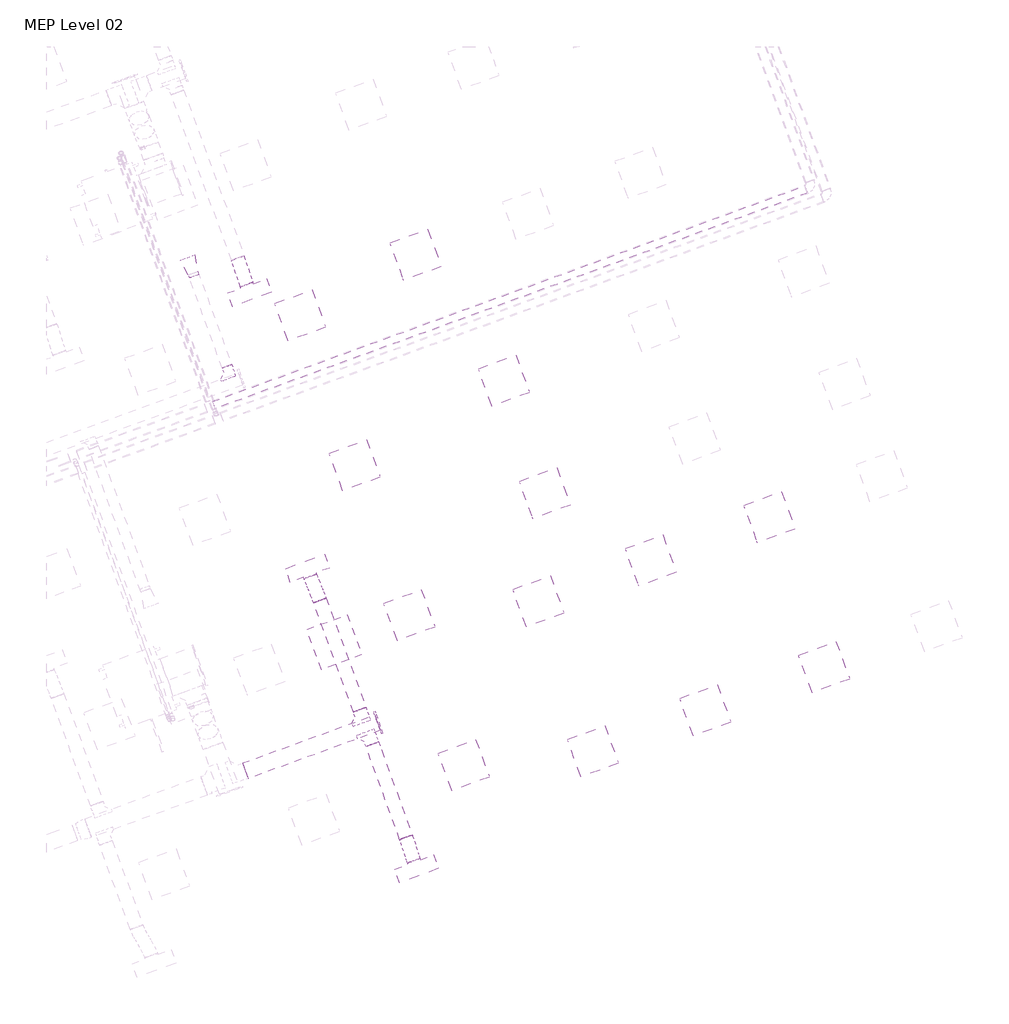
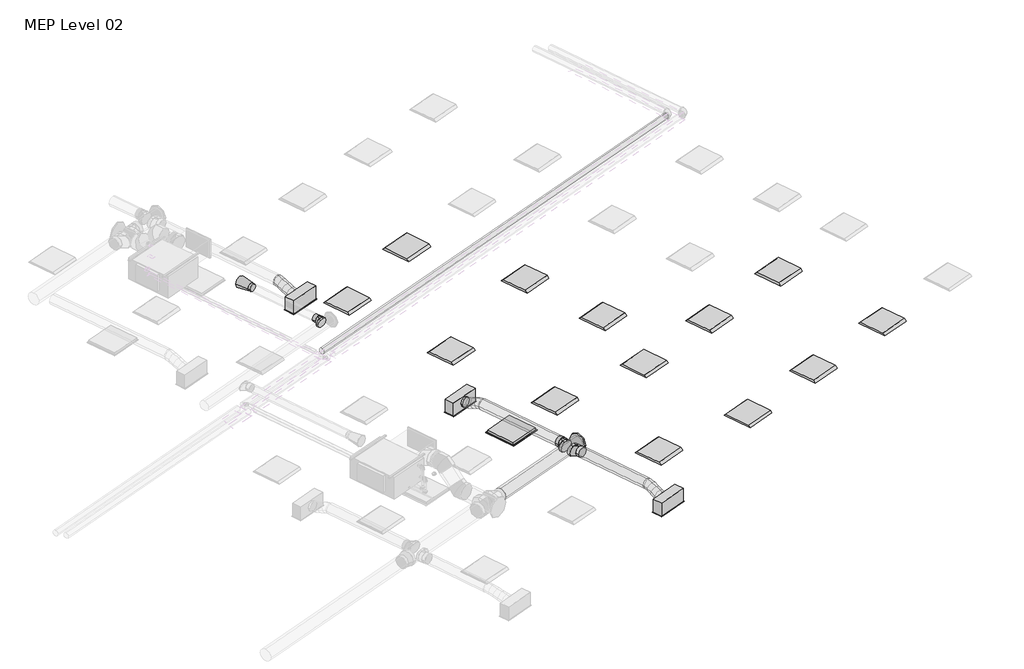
# One storey, part 23 of 26: 13 light fixtures, 6 duct segments, 5 air terminals, 4 duct fittings, 1 pipe segment.
"""IFC4 building model written with IfcOpenShell, lengths in millimetres."""

from ifc_helpers import new_model, si_unit, point, frame, frame_2d, origin, place, context, project, spatial, circle_curve, ellipse_curve, trimmed, segment, composite_curve, outline, extrude, transform, mapped, element, save
from ifc_brep_helpers import plane_surface, cylinder_surface, advanced_brep
from components import air_terminal_b88b8e4d, return_grille_rectangular_hosted_standard_7b12617c, supply_diffuser_with_plenum_linear_slot_hosted_8c379eed, supply_diffuser_with_plenum_linear_slot_hosted_8e4f2f20, dw144_round_blank_end_standard_9aa061e7, dw144_round_shoe_branch_slip_joint_standard_559552f4, dw144_round_shoe_branch_slip_joint_standard_ce91aa06, light_fixture_600x600_230_1c7c1157, light_fixture_600x600_230_b730b5ca

model = new_model("IFC4")

# Units and contexts
model_context = context("Model", 3, world=origin())
ifc_project = project(units=[si_unit("LENGTHUNIT", "METRE", prefix="MILLI")], contexts=[model_context])

# Site, building, storey
site = spatial("IfcSite", under=ifc_project)
building = spatial("IfcBuilding", under=site)
storey = spatial("IfcBuildingStorey", under=building, Name="MEP Level 02", Elevation=7800.0)

# Air terminals
placement = place(None, origin())
air_terminal_shape = air_terminal_b88b8e4d(model_context)
element("IfcAirTerminal", 1, ObjectType="Supply_Bell_Mouth_Grille : Supply_Bell_Mouth_Grille", at=placement, inside=storey, context=model_context, shape_type="MappedRepresentation", body=[
    mapped(air_terminal_shape, transform((46296.0892596, 15558.7753368, 11100.0), x_axis=(-0.3420201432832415, 0.9396926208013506, 0.0), y_axis=(-0.9396926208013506, -0.3420201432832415, 0.0), z_axis=(0.0, 0.0, 1.0))),
])
return_grille_rectangular_hosted_standard_shape = return_grille_rectangular_hosted_standard_7b12617c(model_context)
element("IfcAirTerminal", 2, ObjectType="Return Grille - Rectangular - Hosted : Standard", at=placement, inside=storey, context=model_context, shape_type="MappedRepresentation", body=[
    mapped(return_grille_rectangular_hosted_standard_shape, transform((48421.6840083, 10008.6240199, 10600.0), x_axis=(0.939692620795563, 0.34202014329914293, 0.0), y_axis=(0.34202014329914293, -0.939692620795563, 0.0), z_axis=(0.0, 0.0, -1.0))),
])
supply_diffuser_with_plenum_linear_slot_hosted_shape = supply_diffuser_with_plenum_linear_slot_hosted_8c379eed(model_context)
element("IfcAirTerminal", 3, ObjectType="Supply Diffuser with Plenum - Linear Slot - Hosted : 600mmx193.8mm-200 In Inlet  4-Slot", at=placement, inside=storey, context=model_context, shape_type="MappedRepresentation", body=[
    mapped(supply_diffuser_with_plenum_linear_slot_hosted_shape, transform((47145.4613084, 15265.5154108, 10600.0), x_axis=(0.9396926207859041, 0.3420201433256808, 0.0), y_axis=(0.3420201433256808, -0.9396926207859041, 0.0), z_axis=(0.0, 0.0, -1.0))),
])
supply_diffuser_with_plenum_linear_slot_hosted_2_shape = supply_diffuser_with_plenum_linear_slot_hosted_8e4f2f20(model_context)
element("IfcAirTerminal", 4, ObjectType="Supply Diffuser with Plenum - Linear Slot - Hosted : 600mmx193.8mm-200 In Inlet  4-Slot", at=placement, inside=storey, context=model_context, shape_type="MappedRepresentation", body=[
    mapped(supply_diffuser_with_plenum_linear_slot_hosted_2_shape, transform((49660.6802865, 6600.9419062, 10600.0), x_axis=(-0.9396926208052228, -0.34202014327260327, 0.0), y_axis=(-0.34202014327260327, 0.9396926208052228, 0.0), z_axis=(0.0, 0.0, -1.0))),
])
element("IfcAirTerminal", 5, ObjectType="Supply Diffuser with Plenum - Linear Slot - Hosted : 600mmx193.8mm-200 In Inlet  4-Slot", at=placement, inside=storey, context=model_context, shape_type="MappedRepresentation", body=[
    mapped(supply_diffuser_with_plenum_linear_slot_hosted_2_shape, transform((48015.9235464, 11120.0928133, 10600.0), x_axis=(0.939692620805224, 0.3420201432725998, 0.0), y_axis=(0.3420201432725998, -0.939692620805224, 0.0), z_axis=(0.0, 0.0, -1.0))),
])

# Duct fittings
dw144_round_blank_end_standard_shape = dw144_round_blank_end_standard_9aa061e7(model_context)
element("IfcDuctFitting", 6, ObjectType="DW144 Round Blank End : Standard", at=placement, inside=storey, context=model_context, shape_type="MappedRepresentation", body=[
    mapped(dw144_round_blank_end_standard_shape, transform((49072.7310347, 8798.1556694, 10872.2088531), x_axis=(0.9396926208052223, 0.3420201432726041, 0.0), y_axis=(-0.3420201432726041, 0.9396926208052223, 0.0), z_axis=(0.0, 0.0, 1.0))),
])
dw144_round_shoe_branch_slip_joint_standard_shape = dw144_round_shoe_branch_slip_joint_standard_559552f4(model_context)
element("IfcDuctFitting", 7, ObjectType="DW144 Round Shoe Branch - Slip Joint : Standard", at=placement, inside=storey, context=model_context, shape_type="MappedRepresentation", body=[
    mapped(dw144_round_shoe_branch_slip_joint_standard_shape, transform((48939.2384692, 8616.5461275, 10872.2088531), x_axis=(0.34202014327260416, -0.9396926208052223, 0.0), y_axis=(-0.9396926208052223, -0.34202014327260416, 0.0), z_axis=(0.0, 0.0, -1.0))),
])
element("IfcDuctFitting", 8, ObjectType="DW144 Round Shoe Branch - Slip Joint : Standard", at=placement, inside=storey, context=model_context, shape_type="MappedRepresentation", body=[
    mapped(dw144_round_shoe_branch_slip_joint_standard_shape, transform((48853.7334333, 8851.4692827, 10872.2088531), x_axis=(-0.34202014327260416, 0.9396926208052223, 0.0), y_axis=(-0.9396926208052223, -0.34202014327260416, 0.0), z_axis=(0.0, 0.0, 1.0))),
])
dw144_round_shoe_branch_slip_joint_standard_2_shape = dw144_round_shoe_branch_slip_joint_standard_ce91aa06(model_context)
element("IfcDuctFitting", 9, ObjectType="DW144 Round Shoe Branch - Slip Joint : Standard", at=placement, inside=storey, context=model_context, shape_type="MappedRepresentation", body=[
    mapped(dw144_round_shoe_branch_slip_joint_standard_2_shape, transform((46856.1472442, 14020.0286702, 11100.0), x_axis=(-0.3420201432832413, 0.9396926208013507, 0.0), y_axis=(0.9396926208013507, 0.3420201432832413, 0.0), z_axis=(0.0, 0.0, -1.0))),
])

# Duct segments
element("IfcDuctSegment", 10, ObjectType="DW144 Segmented Bend / Shoe Branch", at=placement, inside=storey, context=model_context, shape_type="SweptSolid", body=[
    extrude(outline(composite_curve([segment(trimmed(circle_curve(frame_2d((0.0, 125.0)), 125.0), [point((125.0, 125.0))], [point((0.0, 0.0))], False, "CARTESIAN"), True, "CONTINUOUS"), segment(trimmed(circle_curve(frame_2d((0.0, 125.0)), 125.0), [point((0.0, 0.0))], [point((-125.0, 125.0))], False, "CARTESIAN"), True, "CONTINUOUS"), segment(trimmed(circle_curve(frame_2d((0.0, 125.0)), 125.0), [point((-125.0, 125.0))], [point((0.0, 250.0))], False, "CARTESIAN"), True, "CONTINUOUS"), segment(trimmed(circle_curve(frame_2d((0.0, 125.0)), 125.0), [point((0.0, 250.0))], [point((125.0, 125.0))], False, "CARTESIAN"), True, "CONTINUOUS")], self_intersect=False)), frame((47086.1479384, 8075.0985546, 10997.2088531), z_axis=(0.9396926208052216, 0.34202014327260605, 0.0), x_axis=(0.34202014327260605, -0.9396926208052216, 0.0)), (0.0, 0.0, 1.0), 2114.0775742),
])
element("IfcDuctSegment", 11, ObjectType="DW144 Segmented Bend / Shoe Branch", at=placement, inside=storey, context=model_context, shape_type="SweptSolid", body=[
    extrude(outline(composite_curve([segment(trimmed(circle_curve(frame_2d((0.0, -100.0)), 100.0), [point((-100.0, -100.0))], [point((0.0, 0.0))], False, "CARTESIAN"), True, "CONTINUOUS"), segment(trimmed(circle_curve(frame_2d((0.0, -100.0)), 100.0), [point((0.0, 0.0))], [point((99.9999999, -100.0))], False, "CARTESIAN"), True, "CONTINUOUS"), segment(trimmed(circle_curve(frame_2d((0.0, -100.0)), 100.0), [point((99.9999999, -100.0))], [point((0.0, -200.0))], False, "CARTESIAN"), True, "CONTINUOUS"), segment(trimmed(circle_curve(frame_2d((0.0, -100.0)), 100.0), [point((0.0, -200.0))], [point((-100.0, -100.0))], False, "CARTESIAN"), True, "CONTINUOUS")], self_intersect=False)), frame((49500.2755983, 7075.1092836, 10772.2088531), z_axis=(-0.3420201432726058, 0.9396926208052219, 0.0), x_axis=(0.9396926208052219, 0.3420201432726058, 0.0)), (0.0, 0.0, 1.0), 1490.362827),
])
element("IfcDuctSegment", 12, ObjectType="DW144 Segmented Bend / Shoe Branch", at=placement, inside=storey, context=model_context, shape_type="SweptSolid", body=[
    extrude(outline(composite_curve([segment(trimmed(circle_curve(frame_2d((0.0, 100.0)), 100.0), [point((99.9999999, 100.0))], [point((0.0, 0.0))], False, "CARTESIAN"), True, "CONTINUOUS"), segment(trimmed(circle_curve(frame_2d((0.0, 100.0)), 100.0), [point((0.0, 0.0))], [point((-100.0, 100.0))], False, "CARTESIAN"), True, "CONTINUOUS"), segment(trimmed(circle_curve(frame_2d((0.0, 100.0)), 100.0), [point((-100.0, 100.0))], [point((0.0, 200.0))], False, "CARTESIAN"), True, "CONTINUOUS"), segment(trimmed(circle_curve(frame_2d((0.0, 100.0)), 100.0), [point((0.0, 200.0))], [point((99.9999999, 100.0))], False, "CARTESIAN"), True, "CONTINUOUS")], self_intersect=False)), frame((48802.4304119, 8992.4231759, 10972.2088531), z_axis=(-0.3420201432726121, 0.9396926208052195, 0.0), x_axis=(0.9396926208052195, 0.3420201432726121, 0.0)), (0.0, 0.0, 1.0), 1749.637173),
])
element("IfcDuctSegment", 13, ObjectType="Flex - Round", at=placement, inside=storey, context=model_context, shape_type="AdvancedBrep", body=[
    advanced_brep(
    [(47061.6165117, 15821.9331388, 10872.2088531), (46967.6472496, 15787.7311245, 10772.2088531), (46873.6779876, 15753.5291101, 10872.2088531), (46967.6472496, 15787.7311245, 10972.2088531), (47067.7422215, 15805.1028896, 10872.2088531), (46969.9838, 15781.3115052, 10772.2088531), (46879.1287776, 15738.5531876, 10872.2088531), (46976.8871991, 15762.344572, 10972.2088531), (47195.344174, 15420.843804, 10754.4), (47101.374912, 15386.6417897, 10854.4), (47007.4056499, 15352.4397753, 10754.4), (47101.374912, 15386.6417897, 10654.4), (47097.4976819, 15717.9848178, 10853.4380801), (46993.275592, 15713.1177694, 10757.5155856), (46907.7329386, 15654.8058917, 10854.1643596), (47011.9550285, 15659.6729402, 10950.0868541), (47129.6305157, 15618.0385566, 10812.6402971), (47022.7465677, 15621.4509757, 10720.097458), (46939.3916459, 15556.3343575, 10813.968556), (47046.2755939, 15552.9219384, 10906.5113951), (47161.289223, 15519.5670224, 10772.4444935), (47057.0671331, 15514.699974, 10676.521999), (46971.5244797, 15456.3880963, 10773.1707731), (47075.7465696, 15461.2551447, 10869.0932676), (47189.893384, 15435.8197266, 10754.4), (47092.1349625, 15412.0283422, 10654.4), (47001.2799401, 15369.2700246, 10754.4), (47099.0383616, 15393.061409, 10854.4)],
    [
        (0, 1, circle_curve(frame((46967.6472496, 15787.7311245, 10872.2088531), z_axis=(-0.3420201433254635, 0.9396926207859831, 0.0), x_axis=(0.9396926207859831, 0.3420201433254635, 0.0)), 100.0)),
        (1, 2, circle_curve(frame((46967.6472496, 15787.7311245, 10872.2088531), z_axis=(-0.3420201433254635, 0.9396926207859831, 0.0), x_axis=(0.9396926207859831, 0.3420201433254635, 0.0)), 100.0)),
        (2, 3, circle_curve(frame((46967.6472496, 15787.7311245, 10872.2088531), z_axis=(-0.3420201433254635, 0.9396926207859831, 0.0), x_axis=(0.9396926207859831, 0.3420201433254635, 0.0)), 100.0)),
        (3, 0, circle_curve(frame((46967.6472496, 15787.7311245, 10872.2088531), z_axis=(-0.3420201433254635, 0.9396926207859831, 0.0), x_axis=(0.9396926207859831, 0.3420201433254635, 0.0)), 100.0)),
        (0, 4),
        (4, 5, ellipse_curve(frame((46973.4354995, 15771.8280386, 10872.2088531), z_axis=(-0.3310508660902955, 0.9382558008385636, 0.10040605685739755), x_axis=(-0.12547245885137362, 0.06169108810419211, -0.9901771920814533)), 100.5128046, 100.0)),
        (5, 1),
        (5, 6, ellipse_curve(frame((46973.4354995, 15771.8280386, 10872.2088531), z_axis=(-0.3310508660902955, 0.9382558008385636, 0.10040605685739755), x_axis=(-0.12547245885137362, 0.06169108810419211, -0.9901771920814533)), 100.5128046, 100.0)),
        (6, 2),
        (6, 7, ellipse_curve(frame((46973.4354995, 15771.8280386, 10872.2088531), z_axis=(-0.3310508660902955, 0.9382558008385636, 0.10040605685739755), x_axis=(-0.12547245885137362, 0.06169108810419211, -0.9901771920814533)), 100.5128046, 100.0)),
        (7, 3),
        (7, 4, ellipse_curve(frame((46973.4354995, 15771.8280386, 10872.2088531), z_axis=(-0.3310508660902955, 0.9382558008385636, 0.10040605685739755), x_axis=(-0.12547245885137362, 0.06169108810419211, -0.9901771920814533)), 100.5128046, 100.0)),
        (8, 9, circle_curve(frame((47101.374912, 15386.6417897, 10754.4), z_axis=(0.3420201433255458, -0.9396926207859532, 0.0), x_axis=(0.9396926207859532, 0.3420201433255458, 0.0)), 100.0)),
        (9, 10, circle_curve(frame((47101.374912, 15386.6417897, 10754.4), z_axis=(0.3420201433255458, -0.9396926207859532, 0.0), x_axis=(0.9396926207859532, 0.3420201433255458, 0.0)), 100.0)),
        (10, 11, circle_curve(frame((47101.374912, 15386.6417897, 10754.4), z_axis=(0.3420201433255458, -0.9396926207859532, 0.0), x_axis=(0.9396926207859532, 0.3420201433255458, 0.0)), 100.0)),
        (11, 8, circle_curve(frame((47101.374912, 15386.6417897, 10754.4), z_axis=(0.3420201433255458, -0.9396926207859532, 0.0), x_axis=(0.9396926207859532, 0.3420201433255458, 0.0)), 100.0)),
        (4, 12),
        (12, 13, ellipse_curve(frame((47002.6153102, 15686.3953548, 10853.8012198), z_axis=(-0.3020911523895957, 0.9106055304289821, 0.2820257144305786), x_axis=(-0.18460484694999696, 0.23436575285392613, -0.9544599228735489)), 100.3639958, 100.0)),
        (13, 5),
        (13, 14, ellipse_curve(frame((47002.6153102, 15686.3953548, 10853.8012198), z_axis=(-0.3020911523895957, 0.9106055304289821, 0.2820257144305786), x_axis=(-0.18460484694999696, 0.23436575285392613, -0.9544599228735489)), 100.3639958, 100.0)),
        (14, 6),
        (14, 15, ellipse_curve(frame((47002.6153102, 15686.3953548, 10853.8012198), z_axis=(-0.3020911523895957, 0.9106055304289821, 0.2820257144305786), x_axis=(-0.18460484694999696, 0.23436575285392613, -0.9544599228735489)), 100.3639958, 100.0)),
        (15, 7),
        (15, 12, ellipse_curve(frame((47002.6153102, 15686.3953548, 10853.8012198), z_axis=(-0.3020911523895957, 0.9106055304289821, 0.2820257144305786), x_axis=(-0.18460484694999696, 0.23436575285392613, -0.9544599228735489)), 100.3639958, 100.0)),
        (12, 16),
        (16, 17, circle_curve(frame((47034.5110808, 15587.1864571, 10813.3044266), z_axis=(-0.2852874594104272, 0.8873607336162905, 0.3622181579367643), x_axis=(0.9511943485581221, 0.3085209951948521, -0.006641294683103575)), 100.0)),
        (17, 13),
        (17, 18, circle_curve(frame((47034.5110808, 15587.1864571, 10813.3044266), z_axis=(-0.2852874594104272, 0.8873607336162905, 0.3622181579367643), x_axis=(0.9511943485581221, 0.3085209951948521, -0.006641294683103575)), 100.0)),
        (18, 14),
        (18, 19, circle_curve(frame((47034.5110808, 15587.1864571, 10813.3044266), z_axis=(-0.2852874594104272, 0.8873607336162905, 0.3622181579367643), x_axis=(0.9511943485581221, 0.3085209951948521, -0.006641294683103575)), 100.0)),
        (19, 15),
        (19, 16, circle_curve(frame((47034.5110808, 15587.1864571, 10813.3044266), z_axis=(-0.2852874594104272, 0.8873607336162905, 0.3622181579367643), x_axis=(0.9511943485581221, 0.3085209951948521, -0.006641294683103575)), 100.0)),
        (16, 20),
        (20, 21, ellipse_curve(frame((47066.4068514, 15487.9775594, 10772.8076333), z_axis=(-0.30209115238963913, 0.9106055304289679, 0.28202571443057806), x_axis=(0.18460484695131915, -0.23436575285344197, 0.954459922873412)), 100.3639958, 100.0)),
        (21, 17),
        (21, 22, ellipse_curve(frame((47066.4068514, 15487.9775594, 10772.8076333), z_axis=(-0.30209115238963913, 0.9106055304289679, 0.28202571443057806), x_axis=(0.18460484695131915, -0.23436575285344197, 0.954459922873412)), 100.3639958, 100.0)),
        (22, 18),
        (22, 23, ellipse_curve(frame((47066.4068514, 15487.9775594, 10772.8076333), z_axis=(-0.30209115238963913, 0.9106055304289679, 0.28202571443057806), x_axis=(0.18460484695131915, -0.23436575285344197, 0.954459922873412)), 100.3639958, 100.0)),
        (23, 19),
        (23, 20, ellipse_curve(frame((47066.4068514, 15487.9775594, 10772.8076333), z_axis=(-0.30209115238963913, 0.9106055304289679, 0.28202571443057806), x_axis=(0.18460484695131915, -0.23436575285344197, 0.954459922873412)), 100.3639958, 100.0)),
        (20, 24),
        (24, 25, ellipse_curve(frame((47095.5866621, 15402.5448756, 10754.4), z_axis=(-0.33105086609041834, 0.9382558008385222, 0.10040605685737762), x_axis=(0.12547245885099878, -0.061691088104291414, 0.9901771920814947)), 100.5128046, 100.0)),
        (25, 21),
        (25, 26, ellipse_curve(frame((47095.5866621, 15402.5448756, 10754.4), z_axis=(-0.33105086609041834, 0.9382558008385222, 0.10040605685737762), x_axis=(0.12547245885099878, -0.061691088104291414, 0.9901771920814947)), 100.5128046, 100.0)),
        (26, 22),
        (26, 27, ellipse_curve(frame((47095.5866621, 15402.5448756, 10754.4), z_axis=(-0.33105086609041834, 0.9382558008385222, 0.10040605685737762), x_axis=(0.12547245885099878, -0.061691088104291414, 0.9901771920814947)), 100.5128046, 100.0)),
        (27, 23),
        (27, 24, ellipse_curve(frame((47095.5866621, 15402.5448756, 10754.4), z_axis=(-0.33105086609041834, 0.9382558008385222, 0.10040605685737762), x_axis=(0.12547245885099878, -0.061691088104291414, 0.9901771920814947)), 100.5128046, 100.0)),
        (24, 8),
        (11, 25),
        (10, 26),
        (9, 27),
    ],
    [
        plane_surface(frame((46967.6472496, 15787.7311245, 10772.2088531), z_axis=(-0.34202014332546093, 0.9396926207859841, 0.0), x_axis=(0.9396926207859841, 0.34202014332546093, 0.0))),
        cylinder_surface(frame((46967.6472496, 15787.7311245, 10872.2088531), z_axis=(-0.3420201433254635, 0.9396926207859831, 0.0), x_axis=(0.9396926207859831, 0.3420201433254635, 0.0)), 100.0),
        plane_surface(frame((47101.374912, 15386.6417897, 10654.4), z_axis=(0.34202014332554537, -0.9396926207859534, 0.0), x_axis=(0.9396926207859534, 0.34202014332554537, 0.0))),
        cylinder_surface(frame((46973.4354995, 15771.8280386, 10872.2088531), z_axis=(-0.3167036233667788, 0.927245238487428, 0.1997875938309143), x_axis=(0.9461920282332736, 0.32359969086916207, -0.001971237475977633)), 100.0),
        cylinder_surface(frame((47002.6153102, 15686.3953548, 10853.8012198), z_axis=(-0.2852874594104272, 0.8873607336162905, 0.3622181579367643), x_axis=(0.9511943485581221, 0.3085209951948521, -0.006641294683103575)), 100.0),
        cylinder_surface(frame((47034.5110808, 15587.1864571, 10813.3044266), z_axis=(-0.28528745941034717, 0.8873607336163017, 0.3622181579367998), x_axis=(0.9511943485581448, 0.30852099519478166, -0.0066412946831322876)), 100.0),
        cylinder_surface(frame((47066.4068514, 15487.9775594, 10772.8076333), z_axis=(-0.31670362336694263, 0.9272452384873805, 0.19978759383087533), x_axis=(0.9461920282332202, 0.32359969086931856, -0.001971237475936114)), 100.0),
        cylinder_surface(frame((47095.5866621, 15402.5448756, 10754.4), z_axis=(-0.3420201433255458, 0.9396926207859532, 0.0), x_axis=(0.9396926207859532, 0.3420201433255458, 0.0)), 100.0),
    ],
    [
        (0, [[1, 2, 3, 4]]),
        (1, [[-1, 5, 6, 7]]),
        (1, [[-2, -7, 8, 9]]),
        (1, [[-3, -9, 10, 11]]),
        (1, [[-4, -11, 12, -5]]),
        (2, [[13, 14, 15, 16]]),
        (3, [[-6, 17, 18, 19]]),
        (3, [[-8, -19, 20, 21]]),
        (3, [[-10, -21, 22, 23]]),
        (3, [[-12, -23, 24, -17]]),
        (4, [[-18, 25, 26, 27]]),
        (4, [[-20, -27, 28, 29]]),
        (4, [[-22, -29, 30, 31]]),
        (4, [[-24, -31, 32, -25]]),
        (5, [[-26, 33, 34, 35]]),
        (5, [[-28, -35, 36, 37]]),
        (5, [[-30, -37, 38, 39]]),
        (5, [[-32, -39, 40, -33]]),
        (6, [[-34, 41, 42, 43]]),
        (6, [[-36, -43, 44, 45]]),
        (6, [[-38, -45, 46, 47]]),
        (6, [[-40, -47, 48, -41]]),
        (7, [[-42, 49, -16, 50]]),
        (7, [[-44, -50, -15, 51]]),
        (7, [[-46, -51, -14, 52]]),
        (7, [[-48, -52, -13, -49]]),
    ],
),
])
element("IfcDuctSegment", 14, ObjectType="Flex - Round", at=placement, inside=storey, context=model_context, shape_type="AdvancedBrep", body=[
    advanced_brep(
    [(49594.2448603, 7109.3112979, 10872.2088531), (49500.2755983, 7075.1092836, 10772.2088531), (49406.3063362, 7040.9072693, 10872.2088531), (49500.2755983, 7075.1092836, 10972.2088531), (49601.1748691, 7090.2712553, 10872.2088531), (49502.6985936, 7068.4521587, 10772.2088531), (49412.4382659, 7024.0599309, 10872.2088531), (49510.9145414, 7045.8790275, 10972.2088531), (49710.5631522, 6756.2702993, 10754.4), (49616.5938901, 6722.068285, 10854.4), (49522.624628, 6687.8662707, 10754.4), (49616.5938901, 6722.068285, 10654.4), (49625.9543362, 7016.8252392, 10853.318837), (49520.3310501, 7016.1897885, 10758.7671844), (49435.9521766, 6954.3650073, 10854.2836027), (49541.5754628, 6955.000458, 10948.8352552), (49653.6755024, 6929.0600788, 10812.468853), (49545.3451315, 6936.9952534, 10721.9063676), (49463.1939859, 6868.1174898, 10814.1400002), (49571.5243568, 6860.1823152, 10904.7024855), (49680.9173117, 6842.8125613, 10772.3252504), (49575.2940255, 6842.1771106, 10677.7735979), (49490.9151521, 6780.3523294, 10773.2900162), (49596.5384383, 6780.9877801, 10867.8416687), (49704.4312224, 6773.1176377, 10754.4), (49605.9549469, 6751.2985411, 10654.4), (49515.6946192, 6706.9063133, 10754.4), (49614.1708947, 6728.7254099, 10854.4)],
    [
        (0, 1, circle_curve(frame((49500.2755983, 7075.1092836, 10872.2088531), z_axis=(-0.342020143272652, 0.9396926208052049, 0.0), x_axis=(0.9396926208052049, 0.342020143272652, 0.0)), 100.0)),
        (1, 2, circle_curve(frame((49500.2755983, 7075.1092836, 10872.2088531), z_axis=(-0.342020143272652, 0.9396926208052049, 0.0), x_axis=(0.9396926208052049, 0.342020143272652, 0.0)), 100.0)),
        (2, 3, circle_curve(frame((49500.2755983, 7075.1092836, 10872.2088531), z_axis=(-0.342020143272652, 0.9396926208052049, 0.0), x_axis=(0.9396926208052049, 0.342020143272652, 0.0)), 100.0)),
        (3, 0, circle_curve(frame((49500.2755983, 7075.1092836, 10872.2088531), z_axis=(-0.342020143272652, 0.9396926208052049, 0.0), x_axis=(0.9396926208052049, 0.342020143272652, 0.0)), 100.0)),
        (0, 4),
        (4, 5, ellipse_curve(frame((49506.8065675, 7057.1655931, 10872.2088531), z_axis=(-0.3286721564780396, 0.9368860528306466, 0.11924402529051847), x_axis=(-0.13117349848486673, 0.07975087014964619, -0.9881464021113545)), 100.7254845, 100.0)),
        (5, 1),
        (5, 6, ellipse_curve(frame((49506.8065675, 7057.1655931, 10872.2088531), z_axis=(-0.3286721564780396, 0.9368860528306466, 0.11924402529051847), x_axis=(-0.13117349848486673, 0.07975087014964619, -0.9881464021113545)), 100.7254845, 100.0)),
        (6, 2),
        (6, 7, ellipse_curve(frame((49506.8065675, 7057.1655931, 10872.2088531), z_axis=(-0.3286721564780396, 0.9368860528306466, 0.11924402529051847), x_axis=(-0.13117349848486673, 0.07975087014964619, -0.9881464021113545)), 100.7254845, 100.0)),
        (7, 3),
        (7, 4, ellipse_curve(frame((49506.8065675, 7057.1655931, 10872.2088531), z_axis=(-0.3286721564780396, 0.9368860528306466, 0.11924402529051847), x_axis=(-0.13117349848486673, 0.07975087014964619, -0.9881464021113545)), 100.7254845, 100.0)),
        (8, 9, circle_curve(frame((49616.5938901, 6722.068285, 10754.4), z_axis=(0.34202014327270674, -0.9396926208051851, 0.0), x_axis=(0.9396926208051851, 0.34202014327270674, 0.0)), 100.0)),
        (9, 10, circle_curve(frame((49616.5938901, 6722.068285, 10754.4), z_axis=(0.34202014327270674, -0.9396926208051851, 0.0), x_axis=(0.9396926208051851, 0.34202014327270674, 0.0)), 100.0)),
        (10, 11, circle_curve(frame((49616.5938901, 6722.068285, 10754.4), z_axis=(0.34202014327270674, -0.9396926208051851, 0.0), x_axis=(0.9396926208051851, 0.34202014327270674, 0.0)), 100.0)),
        (11, 8, circle_curve(frame((49616.5938901, 6722.068285, 10754.4), z_axis=(0.34202014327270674, -0.9396926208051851, 0.0), x_axis=(0.9396926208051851, 0.34202014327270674, 0.0)), 100.0)),
        (4, 12),
        (12, 13, ellipse_curve(frame((49530.9532564, 6985.5951233, 10853.8012198), z_axis=(-0.29412642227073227, 0.8997054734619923, 0.32252086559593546), x_axis=(-0.19677784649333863, 0.2732137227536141, -0.9416117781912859)), 100.4046348, 100.0)),
        (13, 5),
        (13, 14, ellipse_curve(frame((49530.9532564, 6985.5951233, 10853.8012198), z_axis=(-0.29412642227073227, 0.8997054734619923, 0.32252086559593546), x_axis=(-0.19677784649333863, 0.2732137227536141, -0.9416117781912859)), 100.4046348, 100.0)),
        (14, 6),
        (14, 15, ellipse_curve(frame((49530.9532564, 6985.5951233, 10853.8012198), z_axis=(-0.29412642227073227, 0.8997054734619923, 0.32252086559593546), x_axis=(-0.19677784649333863, 0.2732137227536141, -0.9416117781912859)), 100.4046348, 100.0)),
        (15, 7),
        (15, 12, ellipse_curve(frame((49530.9532564, 6985.5951233, 10853.8012198), z_axis=(-0.29412642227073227, 0.8997054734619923, 0.32252086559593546), x_axis=(-0.19677784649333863, 0.2732137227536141, -0.9416117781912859)), 100.4046348, 100.0)),
        (12, 16),
        (16, 17, circle_curve(frame((49558.4347442, 6898.5887843, 10813.3044266), z_axis=(-0.2752925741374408, 0.8715757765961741, 0.405671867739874), x_axis=(0.9524075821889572, 0.3047129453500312, -0.008355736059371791)), 100.0)),
        (17, 13),
        (17, 18, circle_curve(frame((49558.4347442, 6898.5887843, 10813.3044266), z_axis=(-0.2752925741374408, 0.8715757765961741, 0.405671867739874), x_axis=(0.9524075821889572, 0.3047129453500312, -0.008355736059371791)), 100.0)),
        (18, 14),
        (18, 19, circle_curve(frame((49558.4347442, 6898.5887843, 10813.3044266), z_axis=(-0.2752925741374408, 0.8715757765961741, 0.405671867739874), x_axis=(0.9524075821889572, 0.3047129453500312, -0.008355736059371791)), 100.0)),
        (19, 15),
        (19, 16, circle_curve(frame((49558.4347442, 6898.5887843, 10813.3044266), z_axis=(-0.2752925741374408, 0.8715757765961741, 0.405671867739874), x_axis=(0.9524075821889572, 0.3047129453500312, -0.008355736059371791)), 100.0)),
        (16, 20),
        (20, 21, ellipse_curve(frame((49585.9162319, 6811.5824453, 10772.8076333), z_axis=(-0.2941264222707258, 0.8997054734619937, 0.32252086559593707), x_axis=(0.19677784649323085, -0.2732137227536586, 0.9416117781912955)), 100.4046348, 100.0)),
        (21, 17),
        (21, 22, ellipse_curve(frame((49585.9162319, 6811.5824453, 10772.8076333), z_axis=(-0.2941264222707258, 0.8997054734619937, 0.32252086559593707), x_axis=(0.19677784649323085, -0.2732137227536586, 0.9416117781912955)), 100.4046348, 100.0)),
        (22, 18),
        (22, 23, ellipse_curve(frame((49585.9162319, 6811.5824453, 10772.8076333), z_axis=(-0.2941264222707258, 0.8997054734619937, 0.32252086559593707), x_axis=(0.19677784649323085, -0.2732137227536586, 0.9416117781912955)), 100.4046348, 100.0)),
        (23, 19),
        (23, 20, ellipse_curve(frame((49585.9162319, 6811.5824453, 10772.8076333), z_axis=(-0.2941264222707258, 0.8997054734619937, 0.32252086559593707), x_axis=(0.19677784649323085, -0.2732137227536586, 0.9416117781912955)), 100.4046348, 100.0)),
        (20, 24),
        (24, 25, ellipse_curve(frame((49610.0629208, 6740.0119755, 10754.4), z_axis=(-0.3286721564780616, 0.9368860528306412, 0.11924402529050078), x_axis=(0.1311734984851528, -0.07975087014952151, 0.9881464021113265)), 100.7254845, 100.0)),
        (25, 21),
        (25, 26, ellipse_curve(frame((49610.0629208, 6740.0119755, 10754.4), z_axis=(-0.3286721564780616, 0.9368860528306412, 0.11924402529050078), x_axis=(0.1311734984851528, -0.07975087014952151, 0.9881464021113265)), 100.7254845, 100.0)),
        (26, 22),
        (26, 27, ellipse_curve(frame((49610.0629208, 6740.0119755, 10754.4), z_axis=(-0.3286721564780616, 0.9368860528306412, 0.11924402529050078), x_axis=(0.1311734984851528, -0.07975087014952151, 0.9881464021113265)), 100.7254845, 100.0)),
        (27, 23),
        (27, 24, ellipse_curve(frame((49610.0629208, 6740.0119755, 10754.4), z_axis=(-0.3286721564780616, 0.9368860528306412, 0.11924402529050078), x_axis=(0.1311734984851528, -0.07975087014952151, 0.9881464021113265)), 100.7254845, 100.0)),
        (24, 8),
        (11, 25),
        (10, 26),
        (9, 27),
    ],
    [
        plane_surface(frame((49500.2755983, 7075.1092836, 10772.2088531), z_axis=(-0.34202014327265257, 0.9396926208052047, 0.0), x_axis=(0.9396926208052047, 0.34202014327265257, 0.0))),
        cylinder_surface(frame((49500.2755983, 7075.1092836, 10872.2088531), z_axis=(-0.342020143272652, 0.9396926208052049, 0.0), x_axis=(0.9396926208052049, 0.342020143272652, 0.0)), 100.0),
        plane_surface(frame((49616.5938901, 6722.068285, 10654.4), z_axis=(0.34202014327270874, -0.9396926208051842, 0.0), x_axis=(0.9396926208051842, 0.34202014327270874, 0.0))),
        cylinder_surface(frame((49506.8065675, 7057.1655931, 10872.2088531), z_axis=(-0.31058958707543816, 0.9205834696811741, 0.23677031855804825), x_axis=(0.947306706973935, 0.32031605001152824, -0.0027624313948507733)), 100.0),
        cylinder_surface(frame((49530.9532564, 6985.5951233, 10853.8012198), z_axis=(-0.2752925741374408, 0.8715757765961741, 0.405671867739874), x_axis=(0.9524075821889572, 0.3047129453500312, -0.008355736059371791)), 100.0),
        cylinder_surface(frame((49558.4347442, 6898.5887843, 10813.3044266), z_axis=(-0.27529257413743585, 0.8715757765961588, 0.4056718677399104), x_axis=(0.952407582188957, 0.3047129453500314, -0.008355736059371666)), 100.0),
        cylinder_surface(frame((49585.9162319, 6811.5824453, 10772.8076333), z_axis=(-0.3105895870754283, 0.9205834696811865, 0.23677031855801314), x_axis=(0.9473067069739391, 0.32031605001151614, -0.0027624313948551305)), 100.0),
        cylinder_surface(frame((49610.0629208, 6740.0119755, 10754.4), z_axis=(-0.34202014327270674, 0.9396926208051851, 0.0), x_axis=(0.9396926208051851, 0.34202014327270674, 0.0)), 100.0),
    ],
    [
        (0, [[1, 2, 3, 4]]),
        (1, [[-1, 5, 6, 7]]),
        (1, [[-2, -7, 8, 9]]),
        (1, [[-3, -9, 10, 11]]),
        (1, [[-4, -11, 12, -5]]),
        (2, [[13, 14, 15, 16]]),
        (3, [[-6, 17, 18, 19]]),
        (3, [[-8, -19, 20, 21]]),
        (3, [[-10, -21, 22, 23]]),
        (3, [[-12, -23, 24, -17]]),
        (4, [[-18, 25, 26, 27]]),
        (4, [[-20, -27, 28, 29]]),
        (4, [[-22, -29, 30, 31]]),
        (4, [[-24, -31, 32, -25]]),
        (5, [[-26, 33, 34, 35]]),
        (5, [[-28, -35, 36, 37]]),
        (5, [[-30, -37, 38, 39]]),
        (5, [[-32, -39, 40, -33]]),
        (6, [[-34, 41, 42, 43]]),
        (6, [[-36, -43, 44, 45]]),
        (6, [[-38, -45, 46, 47]]),
        (6, [[-40, -47, 48, -41]]),
        (7, [[-42, 49, -16, 50]]),
        (7, [[-44, -50, -15, 51]]),
        (7, [[-46, -51, -14, 52]]),
        (7, [[-48, -52, -13, -49]]),
    ],
),
])
element("IfcDuctSegment", 15, ObjectType="Flex - Round", at=placement, inside=storey, context=model_context, shape_type="AdvancedBrep", body=[
    advanced_brep(
    [(48110.0499932, 10602.3423021, 10872.2088531), (48204.0192553, 10636.5443165, 10772.2088531), (48297.9885173, 10670.7463308, 10872.2088531), (48204.0192553, 10636.5443165, 10972.2088531), (48104.1759503, 10618.4811022, 10872.2088531), (48201.6184237, 10643.1405471, 10772.2088531), (48291.3725295, 10688.9236081, 10872.2088531), (48193.9300562, 10664.2641632, 10972.2088531), (47966.0406808, 10964.7644201, 10754.4), (48060.0099429, 10998.9664344, 10854.4), (48153.979205, 11033.1684488, 10754.4), (48060.0099429, 10998.9664344, 10654.4), (48075.5410312, 10692.0823267, 10854.2308245), (48179.38988, 10700.2752651, 10758.2529767), (48261.3690848, 10766.0423965, 10853.3716151), (48157.520236, 10757.8494581, 10949.349463), (48039.3984415, 10780.0503519, 10814.0650575), (48146.0360756, 10781.4556214, 10721.1864259), (48224.6307567, 10855.460399, 10812.5437956), (48117.9931226, 10854.0551295, 10905.4224273), (48002.6601134, 10869.4683544, 10773.237238), (48106.5089622, 10877.6612928, 10677.2593902), (48188.4881669, 10943.4284242, 10772.3780286), (48084.6393181, 10935.2354858, 10868.3558764), (47972.6566687, 10946.5871429, 10754.4), (48070.099142, 10971.2465877, 10654.4), (48159.8532478, 11017.0296487, 10754.4), (48062.4107745, 10992.3702038, 10854.4)],
    [
        (0, 1, circle_curve(frame((48204.0192553, 10636.5443165, 10872.2088531), z_axis=(0.342020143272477, -0.9396926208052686, 0.0), x_axis=(-0.9396926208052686, -0.342020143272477, 0.0)), 100.0)),
        (1, 2, circle_curve(frame((48204.0192553, 10636.5443165, 10872.2088531), z_axis=(0.342020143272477, -0.9396926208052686, 0.0), x_axis=(-0.9396926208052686, -0.342020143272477, 0.0)), 100.0)),
        (2, 3, circle_curve(frame((48204.0192553, 10636.5443165, 10872.2088531), z_axis=(0.342020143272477, -0.9396926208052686, 0.0), x_axis=(-0.9396926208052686, -0.342020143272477, 0.0)), 100.0)),
        (3, 0, circle_curve(frame((48204.0192553, 10636.5443165, 10872.2088531), z_axis=(0.342020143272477, -0.9396926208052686, 0.0), x_axis=(-0.9396926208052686, -0.342020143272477, 0.0)), 100.0)),
        (0, 4),
        (4, 5, ellipse_curve(frame((48197.7742399, 10653.7023551, 10872.2088531), z_axis=(0.3499883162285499, -0.9300721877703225, 0.11168663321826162), x_axis=(-0.051316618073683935, -0.13808429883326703, -0.9890901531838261)), 100.6355107, 100.0)),
        (5, 1),
        (5, 6, ellipse_curve(frame((48197.7742399, 10653.7023551, 10872.2088531), z_axis=(0.3499883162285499, -0.9300721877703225, 0.11168663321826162), x_axis=(-0.051316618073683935, -0.13808429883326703, -0.9890901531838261)), 100.6355107, 100.0)),
        (6, 2),
        (6, 7, ellipse_curve(frame((48197.7742399, 10653.7023551, 10872.2088531), z_axis=(0.3499883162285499, -0.9300721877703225, 0.11168663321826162), x_axis=(-0.051316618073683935, -0.13808429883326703, -0.9890901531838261)), 100.6355107, 100.0)),
        (7, 3),
        (7, 4, ellipse_curve(frame((48197.7742399, 10653.7023551, 10872.2088531), z_axis=(0.3499883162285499, -0.9300721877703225, 0.11168663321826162), x_axis=(-0.051316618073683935, -0.13808429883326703, -0.9890901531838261)), 100.6355107, 100.0)),
        (8, 9, circle_curve(frame((48060.0099429, 10998.9664344, 10754.4), z_axis=(-0.3420201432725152, 0.9396926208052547, 0.0), x_axis=(-0.9396926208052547, -0.3420201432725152, 0.0)), 100.0)),
        (9, 10, circle_curve(frame((48060.0099429, 10998.9664344, 10754.4), z_axis=(-0.3420201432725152, 0.9396926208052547, 0.0), x_axis=(-0.9396926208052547, -0.3420201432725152, 0.0)), 100.0)),
        (10, 11, circle_curve(frame((48060.0099429, 10998.9664344, 10754.4), z_axis=(-0.3420201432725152, 0.9396926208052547, 0.0), x_axis=(-0.9396926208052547, -0.3420201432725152, 0.0)), 100.0)),
        (11, 8, circle_curve(frame((48060.0099429, 10998.9664344, 10754.4), z_axis=(-0.3420201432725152, 0.9396926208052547, 0.0), x_axis=(-0.9396926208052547, -0.3420201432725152, 0.0)), 100.0)),
        (4, 12),
        (12, 13, ellipse_curve(frame((48168.455058, 10729.0623616, 10853.8012198), z_axis=(0.3531916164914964, -0.8838469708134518, 0.3067086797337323), x_axis=(0.01951662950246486, -0.32080536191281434, -0.9469440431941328)), 100.3915232, 100.0)),
        (13, 5),
        (13, 14, ellipse_curve(frame((48168.455058, 10729.0623616, 10853.8012198), z_axis=(0.3531916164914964, -0.8838469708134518, 0.3067086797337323), x_axis=(0.01951662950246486, -0.32080536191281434, -0.9469440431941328)), 100.3915232, 100.0)),
        (14, 6),
        (14, 15, ellipse_curve(frame((48168.455058, 10729.0623616, 10853.8012198), z_axis=(0.3531916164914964, -0.8838469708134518, 0.3067086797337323), x_axis=(0.01951662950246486, -0.32080536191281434, -0.9469440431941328)), 100.3915232, 100.0)),
        (15, 7),
        (15, 12, ellipse_curve(frame((48168.455058, 10729.0623616, 10853.8012198), z_axis=(0.3531916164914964, -0.8838469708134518, 0.3067086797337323), x_axis=(0.01951662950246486, -0.32080536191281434, -0.9469440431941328)), 100.3915232, 100.0)),
        (12, 16),
        (16, 17, circle_curve(frame((48132.0145991, 10817.7553755, 10813.3044266), z_axis=(0.3500922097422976, -0.8520950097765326, 0.38906238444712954), x_axis=(-0.9261615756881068, -0.3770502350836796, 0.007606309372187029)), 100.0)),
        (17, 13),
        (17, 18, circle_curve(frame((48132.0145991, 10817.7553755, 10813.3044266), z_axis=(0.3500922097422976, -0.8520950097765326, 0.38906238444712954), x_axis=(-0.9261615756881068, -0.3770502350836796, 0.007606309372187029)), 100.0)),
        (18, 14),
        (18, 19, circle_curve(frame((48132.0145991, 10817.7553755, 10813.3044266), z_axis=(0.3500922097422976, -0.8520950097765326, 0.38906238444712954), x_axis=(-0.9261615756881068, -0.3770502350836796, 0.007606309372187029)), 100.0)),
        (19, 15),
        (19, 16, circle_curve(frame((48132.0145991, 10817.7553755, 10813.3044266), z_axis=(0.3500922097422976, -0.8520950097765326, 0.38906238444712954), x_axis=(-0.9261615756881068, -0.3770502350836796, 0.007606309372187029)), 100.0)),
        (16, 20),
        (20, 21, ellipse_curve(frame((48095.5741402, 10906.4483893, 10772.8076333), z_axis=(0.3531916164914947, -0.88384697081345, 0.30670867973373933), x_axis=(-0.01951662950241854, 0.32080536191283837, 0.9469440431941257)), 100.3915232, 100.0)),
        (21, 17),
        (21, 22, ellipse_curve(frame((48095.5741402, 10906.4483893, 10772.8076333), z_axis=(0.3531916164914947, -0.88384697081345, 0.30670867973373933), x_axis=(-0.01951662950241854, 0.32080536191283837, 0.9469440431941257)), 100.3915232, 100.0)),
        (22, 18),
        (22, 23, ellipse_curve(frame((48095.5741402, 10906.4483893, 10772.8076333), z_axis=(0.3531916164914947, -0.88384697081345, 0.30670867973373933), x_axis=(-0.01951662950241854, 0.32080536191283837, 0.9469440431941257)), 100.3915232, 100.0)),
        (23, 19),
        (23, 20, ellipse_curve(frame((48095.5741402, 10906.4483893, 10772.8076333), z_axis=(0.3531916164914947, -0.88384697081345, 0.30670867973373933), x_axis=(-0.01951662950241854, 0.32080536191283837, 0.9469440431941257)), 100.3915232, 100.0)),
        (20, 24),
        (24, 25, ellipse_curve(frame((48066.2549583, 10981.8083958, 10754.4), z_axis=(0.34998831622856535, -0.9300721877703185, 0.11168663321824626), x_axis=(0.05131661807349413, 0.1380842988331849, 0.9890901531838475)), 100.6355107, 100.0)),
        (25, 21),
        (25, 26, ellipse_curve(frame((48066.2549583, 10981.8083958, 10754.4), z_axis=(0.34998831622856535, -0.9300721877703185, 0.11168663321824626), x_axis=(0.05131661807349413, 0.1380842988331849, 0.9890901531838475)), 100.6355107, 100.0)),
        (26, 22),
        (26, 27, ellipse_curve(frame((48066.2549583, 10981.8083958, 10754.4), z_axis=(0.34998831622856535, -0.9300721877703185, 0.11168663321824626), x_axis=(0.05131661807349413, 0.1380842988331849, 0.9890901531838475)), 100.6355107, 100.0)),
        (27, 23),
        (27, 24, ellipse_curve(frame((48066.2549583, 10981.8083958, 10754.4), z_axis=(0.34998831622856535, -0.9300721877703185, 0.11168663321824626), x_axis=(0.05131661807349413, 0.1380842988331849, 0.9890901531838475)), 100.6355107, 100.0)),
        (24, 8),
        (11, 25),
        (10, 26),
        (9, 27),
    ],
    [
        plane_surface(frame((48204.0192553, 10636.5443165, 10972.2088531), z_axis=(0.34202014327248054, -0.9396926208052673, 0.0), x_axis=(0.9396926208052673, 0.34202014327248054, 0.0))),
        cylinder_surface(frame((48204.0192553, 10636.5443165, 10872.2088531), z_axis=(0.342020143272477, -0.9396926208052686, 0.0), x_axis=(-0.9396926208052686, -0.342020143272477, 0.0)), 100.0),
        plane_surface(frame((48060.0099429, 10998.9664344, 10854.4), z_axis=(-0.34202014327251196, 0.939692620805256, 0.0), x_axis=(0.939692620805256, 0.34202014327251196, 0.0))),
        cylinder_surface(frame((48197.7742399, 10653.7023551, 10872.2088531), z_axis=(0.3535361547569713, -0.9087049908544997, 0.22196267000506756), x_axis=(-0.9321482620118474, -0.3620688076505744, 0.0024075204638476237)), 100.0),
        cylinder_surface(frame((48168.455058, 10729.0623616, 10853.8012198), z_axis=(0.3500922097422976, -0.8520950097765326, 0.38906238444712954), x_axis=(-0.9261615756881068, -0.3770502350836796, 0.007606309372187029)), 100.0),
        cylinder_surface(frame((48132.0145991, 10817.7553755, 10813.3044266), z_axis=(0.3500922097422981, -0.8520950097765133, 0.38906238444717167), x_axis=(-0.9261615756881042, -0.37705023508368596, 0.007606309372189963)), 100.0),
        cylinder_surface(frame((48095.5741402, 10906.4483893, 10772.8076333), z_axis=(0.3535361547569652, -0.9087049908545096, 0.2219626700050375), x_axis=(-0.9321482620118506, -0.36206880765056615, 0.0024075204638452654)), 100.0),
        cylinder_surface(frame((48066.2549583, 10981.8083958, 10754.4), z_axis=(0.3420201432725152, -0.9396926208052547, 0.0), x_axis=(-0.9396926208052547, -0.3420201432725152, 0.0)), 100.0),
    ],
    [
        (0, [[1, 2, 3, 4]]),
        (1, [[-1, 5, 6, 7]]),
        (1, [[-2, -7, 8, 9]]),
        (1, [[-3, -9, 10, 11]]),
        (1, [[-4, -11, 12, -5]]),
        (2, [[13, 14, 15, 16]]),
        (3, [[-6, 17, 18, 19]]),
        (3, [[-8, -19, 20, 21]]),
        (3, [[-10, -21, 22, 23]]),
        (3, [[-12, -23, 24, -17]]),
        (4, [[-18, 25, 26, 27]]),
        (4, [[-20, -27, 28, 29]]),
        (4, [[-22, -29, 30, 31]]),
        (4, [[-24, -31, 32, -25]]),
        (5, [[-26, 33, 34, 35]]),
        (5, [[-28, -35, 36, 37]]),
        (5, [[-30, -37, 38, 39]]),
        (5, [[-32, -39, 40, -33]]),
        (6, [[-34, 41, 42, 43]]),
        (6, [[-36, -43, 44, 45]]),
        (6, [[-38, -45, 46, 47]]),
        (6, [[-40, -47, 48, -41]]),
        (7, [[-42, 49, -16, 50]]),
        (7, [[-44, -50, -15, 51]]),
        (7, [[-46, -51, -14, 52]]),
        (7, [[-48, -52, -13, -49]]),
    ],
),
])

# Light fixtures
light_fixture_600x600_230_shape = light_fixture_600x600_230_1c7c1157(model_context)
element("IfcLightFixture", 16, ObjectType="ELEKTRA Recessed Lighting Fixture : 600x600 - 230", at=placement, inside=storey, context=model_context, shape_type="MappedRepresentation", body=[
    mapped(light_fixture_600x600_230_shape, transform((50190.7752814, 7775.192446, 10600.0), x_axis=(0.9396926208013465, 0.3420201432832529, 0.0), y_axis=(0.3420201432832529, -0.9396926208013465, 0.0), z_axis=(0.0, 0.0, -1.0))),
])
element("IfcLightFixture", 17, ObjectType="ELEKTRA Recessed Lighting Fixture : 600x600 - 230", at=placement, inside=storey, context=model_context, shape_type="MappedRepresentation", body=[
    mapped(light_fixture_600x600_230_shape, transform((49369.9269375, 10030.4547359, 10600.0), x_axis=(0.9396926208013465, 0.34202014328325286, 0.0), y_axis=(0.34202014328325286, -0.9396926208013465, 0.0), z_axis=(0.0, 0.0, -1.0))),
])
element("IfcLightFixture", 18, ObjectType="ELEKTRA Recessed Lighting Fixture : 600x600 - 230", at=placement, inside=storey, context=model_context, shape_type="MappedRepresentation", body=[
    mapped(light_fixture_600x600_230_shape, transform((48549.0785937, 12285.7170258, 10600.0), x_axis=(0.9396926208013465, 0.3420201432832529, 0.0), y_axis=(0.3420201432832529, -0.9396926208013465, 0.0), z_axis=(0.0, 0.0, -1.0))),
])
element("IfcLightFixture", 19, ObjectType="ELEKTRA Recessed Lighting Fixture : 600x600 - 230", at=placement, inside=storey, context=model_context, shape_type="MappedRepresentation", body=[
    mapped(light_fixture_600x600_230_shape, transform((47728.2302498, 14540.9793157, 10600.0), x_axis=(0.9396926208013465, 0.3420201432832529, 0.0), y_axis=(0.3420201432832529, -0.9396926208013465, 0.0), z_axis=(0.0, 0.0, -1.0))),
])
element("IfcLightFixture", 20, ObjectType="ELEKTRA Recessed Lighting Fixture : 600x600 - 230", at=placement, inside=storey, context=model_context, shape_type="MappedRepresentation", body=[
    mapped(light_fixture_600x600_230_shape, transform((52133.1387748, 7983.5876554, 10600.0), x_axis=(0.9396926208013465, 0.3420201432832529, 0.0), y_axis=(0.3420201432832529, -0.9396926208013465, 0.0), z_axis=(0.0, 0.0, -1.0))),
])
element("IfcLightFixture", 21, ObjectType="ELEKTRA Recessed Lighting Fixture : 600x600 - 230", at=placement, inside=storey, context=model_context, shape_type="MappedRepresentation", body=[
    mapped(light_fixture_600x600_230_shape, transform((51312.2904309, 10238.8499453, 10600.0), x_axis=(0.9396926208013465, 0.3420201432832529, 0.0), y_axis=(0.3420201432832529, -0.9396926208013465, 0.0), z_axis=(0.0, 0.0, -1.0))),
])
element("IfcLightFixture", 22, ObjectType="ELEKTRA Recessed Lighting Fixture : 600x600 - 230", at=placement, inside=storey, context=model_context, shape_type="MappedRepresentation", body=[
    mapped(light_fixture_600x600_230_shape, transform((53824.5854923, 8599.2239133, 10600.0), x_axis=(0.9396926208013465, 0.3420201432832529, 0.0), y_axis=(0.3420201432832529, -0.9396926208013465, 0.0), z_axis=(0.0, 0.0, -1.0))),
])
element("IfcLightFixture", 23, ObjectType="ELEKTRA Recessed Lighting Fixture : 600x600 - 230", at=placement, inside=storey, context=model_context, shape_type="MappedRepresentation", body=[
    mapped(light_fixture_600x600_230_shape, transform((55611.5519647, 9249.6265188, 10600.0), x_axis=(0.9396926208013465, 0.3420201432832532, 0.0), y_axis=(0.3420201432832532, -0.9396926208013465, 0.0), z_axis=(0.0, 0.0, -1.0))),
])
element("IfcLightFixture", 24, ObjectType="ELEKTRA Recessed Lighting Fixture : 600x600 - 230", at=placement, inside=storey, context=model_context, shape_type="MappedRepresentation", body=[
    mapped(light_fixture_600x600_230_shape, transform((50794.105114, 13557.6162254, 10600.0), x_axis=(0.9396926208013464, 0.3420201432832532, 0.0), y_axis=(0.3420201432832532, -0.9396926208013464, 0.0), z_axis=(0.0, 0.0, -1.0))),
])
light_fixture_600x600_230_2_shape = light_fixture_600x600_230_b730b5ca(model_context)
element("IfcLightFixture", 25, ObjectType="ELEKTRA EM Recessed Lighting Fixture : 600x600 - 230", at=placement, inside=storey, context=model_context, shape_type="MappedRepresentation", body=[
    mapped(light_fixture_600x600_230_2_shape, transform((49466.2165413, 15451.6774543, 10600.0), x_axis=(0.9396926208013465, 0.3420201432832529, 0.0), y_axis=(0.3420201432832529, -0.9396926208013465, 0.0), z_axis=(0.0, 0.0, -1.0))),
])
element("IfcLightFixture", 26, ObjectType="ELEKTRA EM Recessed Lighting Fixture : 600x600 - 230", at=placement, inside=storey, context=model_context, shape_type="MappedRepresentation", body=[
    mapped(light_fixture_600x600_230_2_shape, transform((53003.7371484, 10854.4862032, 10600.0), x_axis=(0.9396926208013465, 0.3420201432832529, 0.0), y_axis=(0.3420201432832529, -0.9396926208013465, 0.0), z_axis=(0.0, 0.0, -1.0))),
])
element("IfcLightFixture", 27, ObjectType="ELEKTRA EM Recessed Lighting Fixture : 600x600 - 230", at=placement, inside=storey, context=model_context, shape_type="MappedRepresentation", body=[
    mapped(light_fixture_600x600_230_2_shape, transform((54790.7036208, 11504.8888087, 10600.0), x_axis=(0.9396926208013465, 0.3420201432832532, 0.0), y_axis=(0.3420201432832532, -0.9396926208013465, 0.0), z_axis=(0.0, 0.0, -1.0))),
])
element("IfcLightFixture", 28, ObjectType="ELEKTRA EM Recessed Lighting Fixture : 600x600 - 230", at=placement, inside=storey, context=model_context, shape_type="MappedRepresentation", body=[
    mapped(light_fixture_600x600_230_2_shape, transform((51409.7413719, 11866.169508, 10600.0), x_axis=(0.9396926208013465, 0.3420201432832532, 0.0), y_axis=(0.3420201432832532, -0.9396926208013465, 0.0), z_axis=(0.0, 0.0, -1.0))),
])

# Pipe segment
element("IfcPipeSegment", 29, ObjectType="Carbon Steel - Threaded", at=placement, inside=storey, context=model_context, shape_type="SweptSolid", body=[
    extrude(outline(composite_curve([segment(trimmed(circle_curve(frame_2d((0.0, 57.45)), 57.45), [point((57.4499999, 57.45))], [point((0.0, 0.0))], False, "CARTESIAN"), True, "CONTINUOUS"), segment(trimmed(circle_curve(frame_2d((0.0, 57.45)), 57.45), [point((0.0, 0.0))], [point((-57.4500001, 57.45))], False, "CARTESIAN"), True, "CONTINUOUS"), segment(trimmed(circle_curve(frame_2d((0.0, 57.45)), 57.45), [point((-57.4500001, 57.45))], [point((0.0, 114.9))], False, "CARTESIAN"), True, "CONTINUOUS"), segment(trimmed(circle_curve(frame_2d((0.0, 57.45)), 57.45), [point((0.0, 114.9))], [point((57.4499999, 57.45))], False, "CARTESIAN"), True, "CONTINUOUS")], self_intersect=False)), frame((46609.6912476, 13574.7959585, 10857.45), z_axis=(0.9396926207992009, 0.3420201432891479, 0.0), x_axis=(0.3420201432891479, -0.9396926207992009, 0.0)), (0.0, 0.0, 1.0), 9479.1848806),
])

save(model, "model.ifc")
